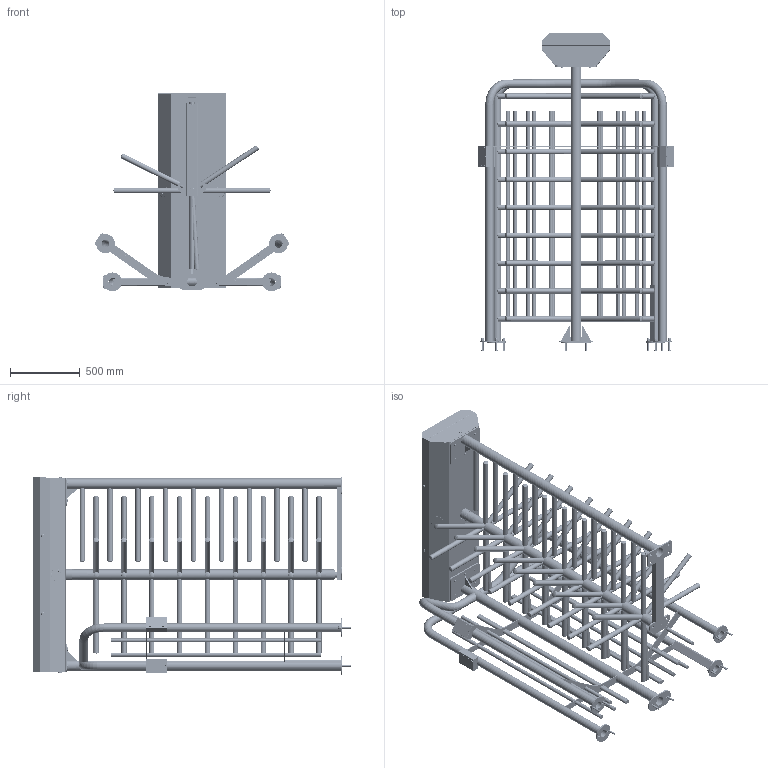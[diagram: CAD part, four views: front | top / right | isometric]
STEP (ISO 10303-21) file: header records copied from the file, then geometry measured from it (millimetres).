
FILE_DESCRIPTION((''),'2;1');
FILE_NAME('ALL-QUANGAO-DTD_ASM_ASM','2021-02-08T',('zhang'),(''),'PRO/ENGINEER BY PARAMETRIC TECHNOLOGY CORPORATION, 2012090','PRO/ENGINEER BY PARAMETRIC TECHNOLOGY CORPORATION, 2012090','');
FILE_SCHEMA(('CONFIG_CONTROL_DESIGN'));
Products named in the file (99): CP_XIANGTI___1; CEB__1; CB-JX__1; CP_A45___1; CP_TS2000-35___1; CP_KG___1; JX-QJB__1; CP_XIANG___ASM_1_ASM; CP_SHAANGAI-1___1; CP_DTS2000-171A__V______1; CP_DTS1000-A23___1; CP_DTS2000-36A__V______ASM_1_ASM; CP_ALL-SHANGGAI___ASM_1_ASM; SG-CB-1__1; SG-CB-2__1; JX-QJB-2__1; ALL-SG__ASM_1_ASM; YKL-DB__1; MANIFOLD_SOLID_BREP_60056; MANIFOLD_SOLID_BREP_60145; MANIFOLD_SOLID_BREP_60234; MANIFOLD_SOLID_BREP_60323; MANIFOLD_SOLID_BREP_60412; CP_DDENGBAN__K___1_ASM; JS__1; XC-B__1; HAIMIANTIE__1; CP_ALL-XIANGTI___ASM_1_ASM; CP_LZ-YG-1___1; CP_WANGUAN-1___1; CP_ZL-GDK-1___1; CP_YUANGUAN-26___1; ALL-HLG__ASM_1_ASM; CP_DIBAN___1; CP_DIBAN-80___1; CP_PRT0001___1; CP_JT-ZJ___1; CP_ZJ-G___1; KJB__1; ZHB-ZJ__1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
Assembly tree (234 placements, depth 7):
  ALL-QUANGAO-DTD_ASM_ASM
    ALL-QUANGAO-DTD_ASM_1_ASM
      CP_ALL-XIANGTI___ASM_1_ASM
        CP_XIANG___ASM_1_ASM
          CP_XIANGTI___1
          CEB__1
          CB-JX__1
          CP_A45___1
          CP_TS2000-35___1  x2
          CP_KG___1  x4
          JX-QJB__1  x2
        ALL-SG__ASM_1_ASM
          CP_ALL-SHANGGAI___ASM_1_ASM
            CP_SHAANGAI-1___1
            CP_DTS2000-36A__V______ASM_1_ASM  x2
              CP_DTS2000-171A__V______1
              CP_DTS1000-A23___1
          SG-CB-1__1
          SG-CB-2__1
          JX-QJB-2__1  x2
        YKL-DB__1  x2
        CP_A45___1
        CP_DDENGBAN__K___1_ASM  x2
          MANIFOLD_SOLID_BREP_60056
          MANIFOLD_SOLID_BREP_60145
          MANIFOLD_SOLID_BREP_60234
          MANIFOLD_SOLID_BREP_60323
          MANIFOLD_SOLID_BREP_60412
        JS__1  x2
        XC-B__1  x2
        HAIMIANTIE__1
      CP_ALL-LZ-YOU___ASM_1_ASM
        CP_LZ-YG-1___1
        CP_WANGUAN-1___1  x2
        ALL-HLG__ASM_1_ASM  x2
          CP_ZL-GDK-1___1
          CP_YUANGUAN-26___1
          JS__1
        CP_DIBAN___1  x2
        CP_DIBAN-80___1
        CP_PRT0001___1
        CP_JT-ZJ___1
        CP_ZJ-G___1
        ALL-101E__ASM_1_ASM  x2
          KJB__1
          ZHB-ZJ__1
          DT-101E__ASM_1_ASM
            DT-101E__1
            KR101E-1__1
            ZHB-101EDT__1
            101E-KJ-1__1
            YKLB-KR101E-1__1
        WYP-DB-01__1
        ZJ-ZCB__ASM_1_ASM
          CP_ZJG___1
        QTLM__1  x5
      Y-ALL__ASM_1_ASM
        LZ-YG-1___1
        PRT00033__1_ASM
          MANIFOLD_SOLID_BREP_370909
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Bounding box: 1405.92 x 2280.57 x 1426.18 mm (x, y, z)
Volume: 29387772.2 mm3; surface area: 27761473.8 mm2
Topology: 386 solids, 397 shells, 10767 faces, 28476 edges, 18630 vertices
Faces by surface type: plane 5344, cylinder 3339, cone 1328, sphere 288, torus 228, bspline 214, extrusion 26
Entity records: 83180 total; most frequent: CARTESIAN_POINT 24188, DIRECTION 12413, ORIENTED_EDGE 11588, EDGE_CURVE 5794, AXIS2_PLACEMENT_3D 4644, VERTEX_POINT 3781, VECTOR 3125, LINE 3120
